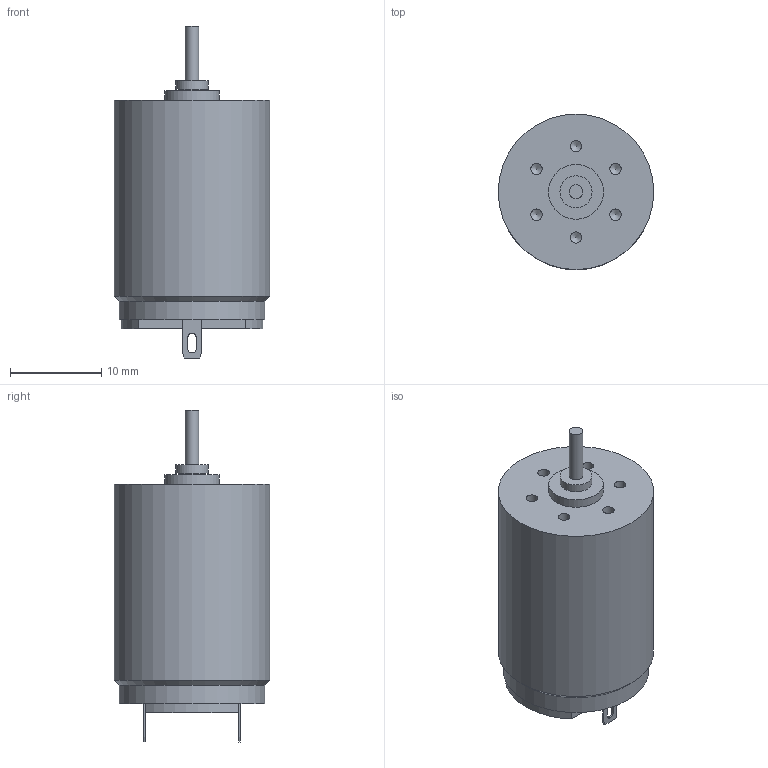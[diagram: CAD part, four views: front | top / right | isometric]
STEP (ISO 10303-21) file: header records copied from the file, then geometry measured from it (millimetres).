
FILE_DESCRIPTION(/* description */ (''),/* implementation_level */ '2;1');
FILE_NAME(/* name */ '1724TSR.stp',/* time_stamp */ '2011-12-21T23:05:15+06:00',/* author */ (''),/* organization */ (''),/* preprocessor_version */ 'ST-DEVELOPER v11',/* originating_system */ 'SIEMENS PLM Software NX 7.5',/* authorisation */ '');
FILE_SCHEMA (('CONFIG_CONTROL_DESIGN'));
Length unit declared in the file: millimetre
Products named in the file (1): 1724TSR
Bounding box: 17 x 17 x 36.3 mm (x, y, z)
Volume: 5560.8 mm3; surface area: 1904.6 mm2
Topology: 1 solids, 1 shells, 54 faces, 135 edges, 88 vertices
Faces by surface type: plane 29, cylinder 18, cone 7
Full cylindrical faces by diameter (mm): 1.25 x6, 1.5 x1, 3 x1, 3.5 x1, 6 x1, 15.9 x1, 17 x1
Entity records: 1522 total; most frequent: DIRECTION 250, CARTESIAN_POINT 241, ORIENTED_EDGE 208, EDGE_CURVE 104, AXIS2_PLACEMENT_3D 91, EDGE_LOOP 82, VERTEX_POINT 82, LINE 68
